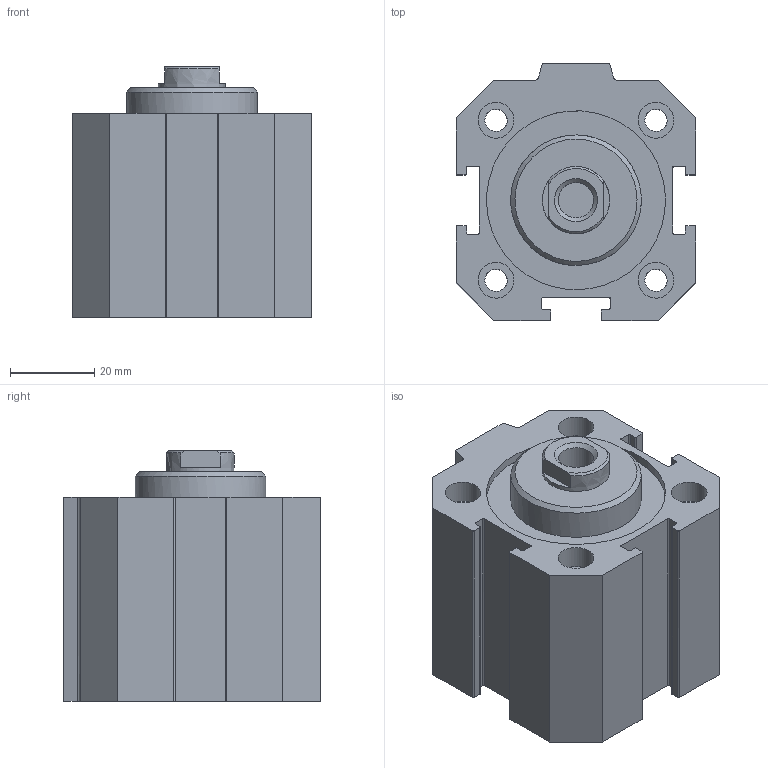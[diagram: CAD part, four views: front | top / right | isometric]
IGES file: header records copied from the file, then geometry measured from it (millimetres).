
Global section: file name: 1511_40_0010; native system: Autodesk Inventor 2014; preprocessor: unknown; author: A. Manieri; date: 20160824.120022; units: millimetre
Bounding box: 57 x 61 x 59.5 mm (x, y, z)
Volume: 126215.8 mm3; surface area: 36590.8 mm2
Topology: 2 solids, 2 shells, 117 faces, 300 edges, 205 vertices
Faces by surface type: bspline 117
